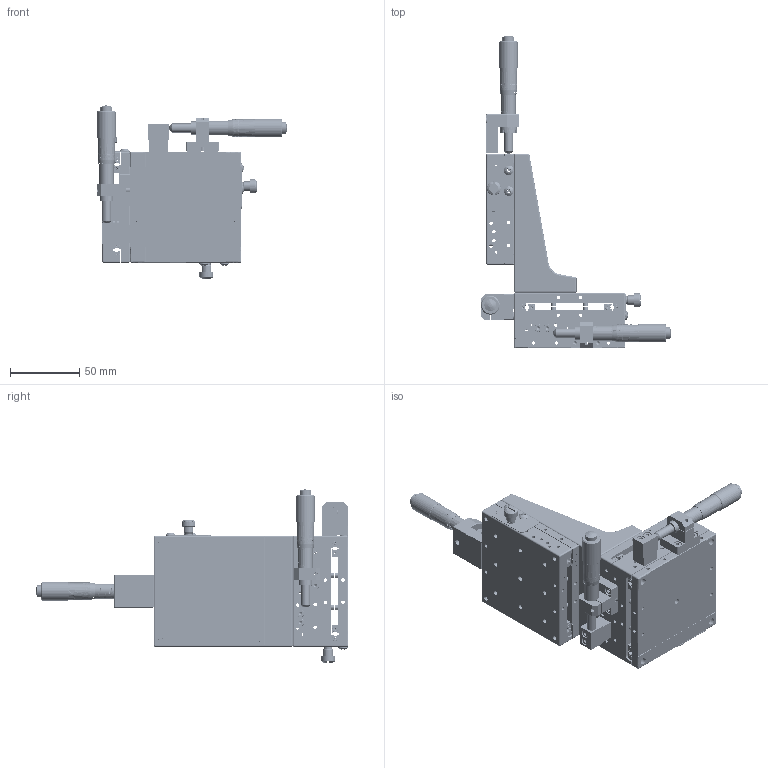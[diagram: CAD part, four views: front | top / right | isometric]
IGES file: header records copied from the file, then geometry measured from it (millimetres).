
Start section: SolidWorks IGES file using analytic representation for surfaces
Bounding box: 137.25 x 225 x 124.65 mm (x, y, z)
Surface area: 141417.2 mm2 (no closed solid volume)
Topology: 0 solids, 0 shells, 1836 faces, 35414 edges, 35319 vertices
Faces by surface type: bspline 951, revolution 885
